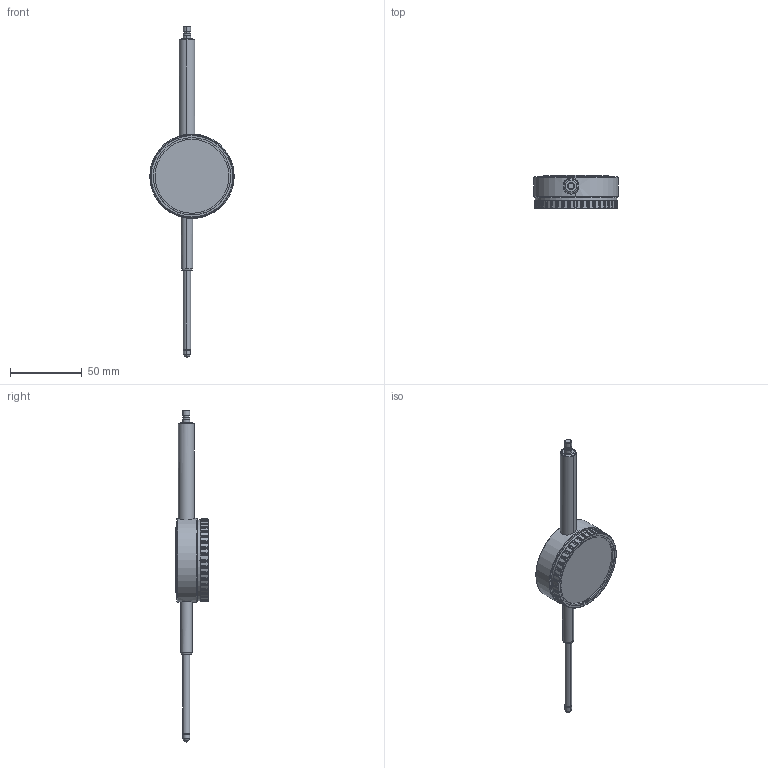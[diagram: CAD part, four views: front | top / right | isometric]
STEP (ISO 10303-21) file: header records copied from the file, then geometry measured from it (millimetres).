
FILE_DESCRIPTION(('STEP AP214'),'1');
FILE_NAME('M10d.STP','2016-07-20T09:55:50',(' '),(' '),'Spatial InterOp 3D',' ',' ');
FILE_SCHEMA(('automotive_design'));
Length unit declared in the file: millimetre
Products named in the file (1): 1
Bounding box: 59 x 23 x 231.99 mm (x, y, z)
Volume: 66319.2 mm3; surface area: 14450.1 mm2
Topology: 1 solids, 4 shells, 385 faces, 1054 edges, 694 vertices
Faces by surface type: cylinder 235, plane 119, cone 30, sphere 1
Entity records: 13754 total; most frequent: CARTESIAN_POINT 4549, ORIENTED_EDGE 2108, DIRECTION 1772, EDGE_CURVE 1054, AXIS2_PLACEMENT_3D 700, VERTEX_POINT 694, EDGE_LOOP 408, ADVANCED_FACE 385
